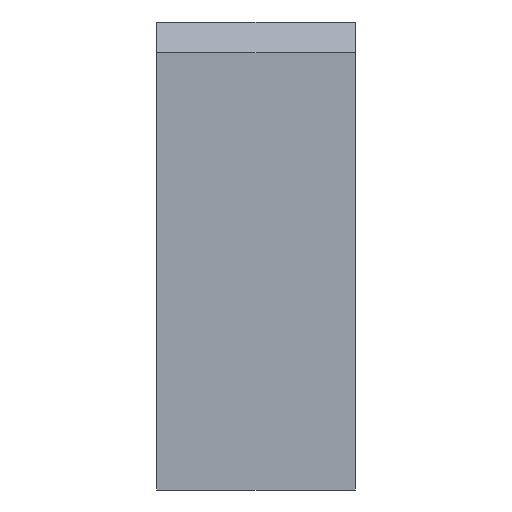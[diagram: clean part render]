
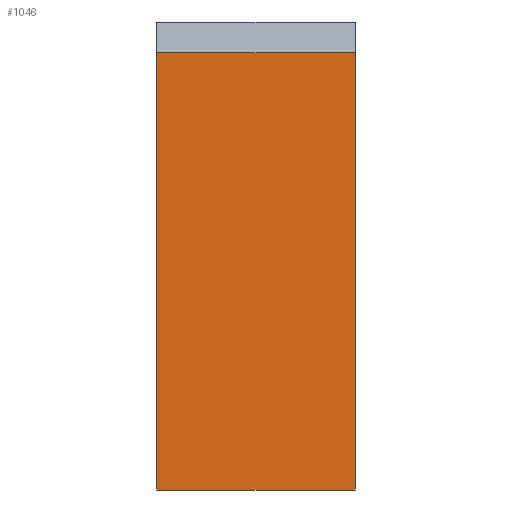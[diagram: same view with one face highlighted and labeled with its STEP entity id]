
A CAD part, front view. The second image highlights one B-rep face of the part: STEP entity #1046.
In plain terms, the highlighted planar face has unit normal (0, -1, 0).
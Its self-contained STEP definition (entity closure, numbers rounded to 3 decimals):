
#901 = EDGE_CURVE('',#902,#904,#906,.T.);
#902 = VERTEX_POINT('',#903);
#903 = CARTESIAN_POINT('',(36.2,-14.8,-14.9));
#904 = VERTEX_POINT('',#905);
#905 = CARTESIAN_POINT('',(36.2,-14.8,-8.734));
#906 = SURFACE_CURVE('',#907,(#911,#923),.PCURVE_S1.);
#907 = LINE('',#908,#909);
#908 = CARTESIAN_POINT('',(36.2,-14.8,-14.9));
#909 = VECTOR('',#910,1.);
#910 = DIRECTION('',(0.,0.,1.));
#911 = PCURVE('',#912,#917);
#912 = PLANE('',#913);
#913 = AXIS2_PLACEMENT_3D('',#914,#915,#916);
#914 = CARTESIAN_POINT('',(36.2,-14.8,-14.9));
#915 = DIRECTION('',(1.,0.,-0.));
#916 = DIRECTION('',(0.,0.,1.));
#917 = DEFINITIONAL_REPRESENTATION('',(#918),#922);
#918 = LINE('',#919,#920);
#919 = CARTESIAN_POINT('',(0.,0.));
#920 = VECTOR('',#921,1.);
#921 = DIRECTION('',(1.,0.));
#922 = ( GEOMETRIC_REPRESENTATION_CONTEXT(2) 
PARAMETRIC_REPRESENTATION_CONTEXT() REPRESENTATION_CONTEXT('2D SPACE',''
  ) );
#923 = PCURVE('',#924,#929);
#924 = PLANE('',#925);
#925 = AXIS2_PLACEMENT_3D('',#926,#927,#928);
#926 = CARTESIAN_POINT('',(36.2,-14.8,-14.9));
#927 = DIRECTION('',(-0.,1.,0.));
#928 = DIRECTION('',(0.,0.,1.));
#929 = DEFINITIONAL_REPRESENTATION('',(#930),#934);
#930 = LINE('',#931,#932);
#931 = CARTESIAN_POINT('',(0.,0.));
#932 = VECTOR('',#933,1.);
#933 = DIRECTION('',(1.,0.));
#934 = ( GEOMETRIC_REPRESENTATION_CONTEXT(2) 
PARAMETRIC_REPRESENTATION_CONTEXT() REPRESENTATION_CONTEXT('2D SPACE',''
  ) );
#952 = PLANE('',#953);
#953 = AXIS2_PLACEMENT_3D('',#954,#955,#956);
#954 = CARTESIAN_POINT('',(36.2,-14.8,-14.9));
#955 = DIRECTION('',(0.,0.,1.));
#956 = DIRECTION('',(1.,0.,-0.));
#1035 = CYLINDRICAL_SURFACE('',#1036,5.75);
#1036 = AXIS2_PLACEMENT_3D('',#1037,#1038,#1039);
#1037 = CARTESIAN_POINT('',(30.,-10.,-11.9));
#1038 = DIRECTION('',(1.,0.,-0.));
#1039 = DIRECTION('',(0.,-1.,0.));
#1046 = ADVANCED_FACE('',(#1047),#924,.F.);
#1047 = FACE_BOUND('',#1048,.F.);
#1048 = EDGE_LOOP('',(#1049,#1079,#1100,#1101));
#1049 = ORIENTED_EDGE('',*,*,#1050,.F.);
#1050 = EDGE_CURVE('',#1051,#1053,#1055,.T.);
#1051 = VERTEX_POINT('',#1052);
#1052 = CARTESIAN_POINT('',(39.,-14.8,-14.9));
#1053 = VERTEX_POINT('',#1054);
#1054 = CARTESIAN_POINT('',(39.,-14.8,-8.734));
#1055 = SURFACE_CURVE('',#1056,(#1060,#1067),.PCURVE_S1.);
#1056 = LINE('',#1057,#1058);
#1057 = CARTESIAN_POINT('',(39.,-14.8,-14.9));
#1058 = VECTOR('',#1059,1.);
#1059 = DIRECTION('',(0.,0.,1.));
#1060 = PCURVE('',#924,#1061);
#1061 = DEFINITIONAL_REPRESENTATION('',(#1062),#1066);
#1062 = LINE('',#1063,#1064);
#1063 = CARTESIAN_POINT('',(0.,2.8));
#1064 = VECTOR('',#1065,1.);
#1065 = DIRECTION('',(1.,0.));
#1066 = ( GEOMETRIC_REPRESENTATION_CONTEXT(2) 
PARAMETRIC_REPRESENTATION_CONTEXT() REPRESENTATION_CONTEXT('2D SPACE',''
  ) );
#1067 = PCURVE('',#1068,#1073);
#1068 = PLANE('',#1069);
#1069 = AXIS2_PLACEMENT_3D('',#1070,#1071,#1072);
#1070 = CARTESIAN_POINT('',(39.,-14.8,-14.9));
#1071 = DIRECTION('',(1.,0.,-0.));
#1072 = DIRECTION('',(0.,0.,1.));
#1073 = DEFINITIONAL_REPRESENTATION('',(#1074),#1078);
#1074 = LINE('',#1075,#1076);
#1075 = CARTESIAN_POINT('',(0.,0.));
#1076 = VECTOR('',#1077,1.);
#1077 = DIRECTION('',(1.,0.));
#1078 = ( GEOMETRIC_REPRESENTATION_CONTEXT(2) 
PARAMETRIC_REPRESENTATION_CONTEXT() REPRESENTATION_CONTEXT('2D SPACE',''
  ) );
#1079 = ORIENTED_EDGE('',*,*,#1080,.F.);
#1080 = EDGE_CURVE('',#902,#1051,#1081,.T.);
#1081 = SURFACE_CURVE('',#1082,(#1086,#1093),.PCURVE_S1.);
#1082 = LINE('',#1083,#1084);
#1083 = CARTESIAN_POINT('',(36.2,-14.8,-14.9));
#1084 = VECTOR('',#1085,1.);
#1085 = DIRECTION('',(1.,0.,-0.));
#1086 = PCURVE('',#924,#1087);
#1087 = DEFINITIONAL_REPRESENTATION('',(#1088),#1092);
#1088 = LINE('',#1089,#1090);
#1089 = CARTESIAN_POINT('',(0.,0.));
#1090 = VECTOR('',#1091,1.);
#1091 = DIRECTION('',(0.,1.));
#1092 = ( GEOMETRIC_REPRESENTATION_CONTEXT(2) 
PARAMETRIC_REPRESENTATION_CONTEXT() REPRESENTATION_CONTEXT('2D SPACE',''
  ) );
#1093 = PCURVE('',#952,#1094);
#1094 = DEFINITIONAL_REPRESENTATION('',(#1095),#1099);
#1095 = LINE('',#1096,#1097);
#1096 = CARTESIAN_POINT('',(0.,0.));
#1097 = VECTOR('',#1098,1.);
#1098 = DIRECTION('',(1.,0.));
#1099 = ( GEOMETRIC_REPRESENTATION_CONTEXT(2) 
PARAMETRIC_REPRESENTATION_CONTEXT() REPRESENTATION_CONTEXT('2D SPACE',''
  ) );
#1100 = ORIENTED_EDGE('',*,*,#901,.T.);
#1101 = ORIENTED_EDGE('',*,*,#1102,.T.);
#1102 = EDGE_CURVE('',#904,#1053,#1103,.T.);
#1103 = SURFACE_CURVE('',#1104,(#1108,#1114),.PCURVE_S1.);
#1104 = LINE('',#1105,#1106);
#1105 = CARTESIAN_POINT('',(30.,-14.8,-8.734));
#1106 = VECTOR('',#1107,1.);
#1107 = DIRECTION('',(1.,0.,-0.));
#1108 = PCURVE('',#924,#1109);
#1109 = DEFINITIONAL_REPRESENTATION('',(#1110),#1113);
#1110 = B_SPLINE_CURVE_WITH_KNOTS('',1,(#1111,#1112),.UNSPECIFIED.,.F.,
  .F.,(2,2),(5.92,9.28),.PIECEWISE_BEZIER_KNOTS.);
#1111 = CARTESIAN_POINT('',(6.166,-0.28));
#1112 = CARTESIAN_POINT('',(6.166,3.08));
#1113 = ( GEOMETRIC_REPRESENTATION_CONTEXT(2) 
PARAMETRIC_REPRESENTATION_CONTEXT() REPRESENTATION_CONTEXT('2D SPACE',''
  ) );
#1114 = PCURVE('',#1035,#1115);
#1115 = DEFINITIONAL_REPRESENTATION('',(#1116),#1119);
#1116 = B_SPLINE_CURVE_WITH_KNOTS('',1,(#1117,#1118),.UNSPECIFIED.,.F.,
  .F.,(2,2),(5.92,9.28),.PIECEWISE_BEZIER_KNOTS.);
#1117 = CARTESIAN_POINT('',(-0.583,5.92));
#1118 = CARTESIAN_POINT('',(-0.583,9.28));
#1119 = ( GEOMETRIC_REPRESENTATION_CONTEXT(2) 
PARAMETRIC_REPRESENTATION_CONTEXT() REPRESENTATION_CONTEXT('2D SPACE',''
  ) );
